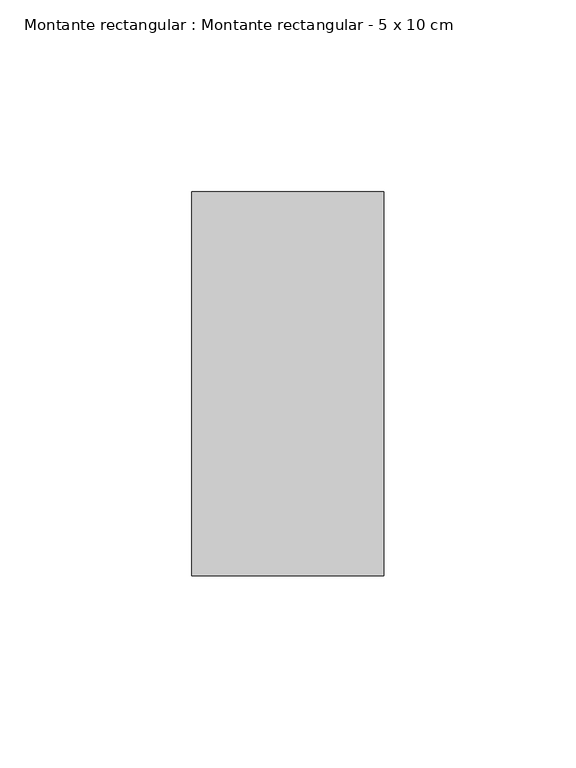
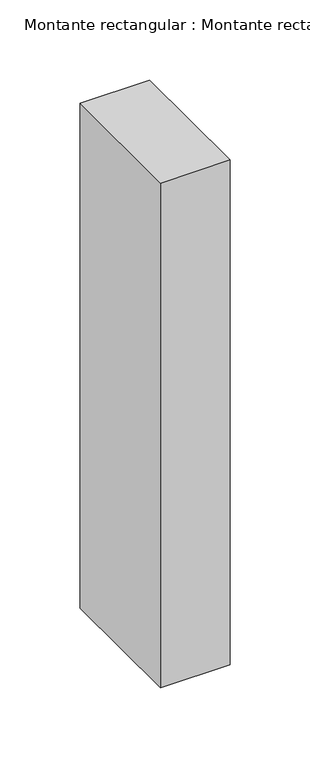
"""IFC4 building model written with IfcOpenShell, lengths in millimetres: member geometry, Montante rectangular : Montante rectangular - 5 x 10 cm."""

from ifc_helpers import new_model, si_unit, frame, origin, place, context, project, spatial, polyline, outline, extrude, source, transform, mapped, element, save


def montante_rectangular_montante_rectangular_5_x_10_cm_842e4165(model_context):
    return source(origin(), model_context, "Body", "SweptSolid", [
        extrude(outline(polyline([(25.0, -50.0), (-25.0, -50.0), (-25.0, 50.0), (25.0, 50.0), (25.0, -50.0)])), frame((0.0, 0.0, -383.8670158), z_axis=(0.0, 0.0, 1.0), x_axis=(1.0, 0.0, 0.0)), (0.0, 0.0, 1.0), 383.8670158),
    ])


if __name__ == "__main__":
    model = new_model("IFC4")
    model_context = context("Model", 3, world=origin())
    ifc_project = project(units=[si_unit("LENGTHUNIT", "METRE", prefix="MILLI")], contexts=[model_context])
    site = spatial("IfcSite", under=ifc_project)
    building = spatial("IfcBuilding", under=site)
    placement = place(None, origin())
    montante_rectangular_montante_rectangular_5_x_10_cm_shape = montante_rectangular_montante_rectangular_5_x_10_cm_842e4165(model_context)
    element("IfcMember", 1, ObjectType="Montante rectangular : Montante rectangular - 5 x 10 cm", at=placement, inside=building, context=model_context, shape_type="MappedRepresentation", body=[
        mapped(montante_rectangular_montante_rectangular_5_x_10_cm_shape, transform((0.0, 0.0, 0.0), x_axis=(1.0, 0.0, 0.0), y_axis=(0.0, 1.0, 0.0), z_axis=(0.0, 0.0, 1.0))),
    ])
    save(model, "model.ifc")
